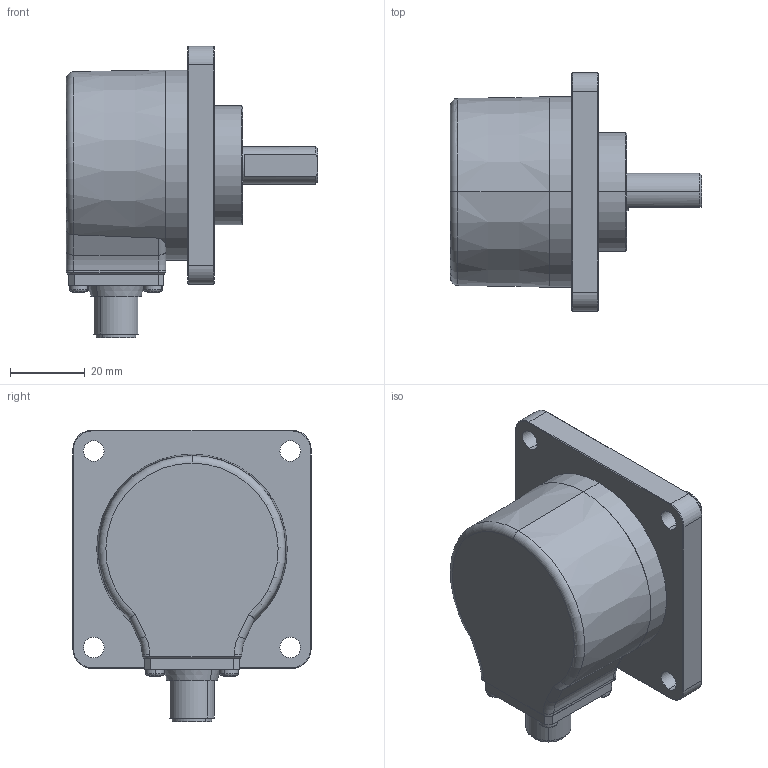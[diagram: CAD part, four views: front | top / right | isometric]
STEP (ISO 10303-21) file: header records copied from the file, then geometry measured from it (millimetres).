
FILE_DESCRIPTION (( 'STEP AP214' ), '1' );
FILE_NAME ('5000.3DX4.XXXX.STEP', '2011-01-04T09:37:50', ( 'admin' ), ( 'Fritz Kübler GmbH' ), 'SwSTEP 2.0', 'SolidWorks 2009', '' );
FILE_SCHEMA (( 'AUTOMOTIVE_DESIGN' ));
Length unit declared in the file: millimetre
Products named in the file (1): 5000.3DX4.XXXX
Bounding box: 67 x 63.5 x 77.75 mm (x, y, z)
Surface area: 20913.6 mm2 (no closed solid volume)
Topology: 0 solids, 17 shells, 258 faces, 733 edges, 460 vertices
Faces by surface type: plane 96, cylinder 69, sphere 44, cone 23, torus 22, bspline 4
Entity records: 11368 total; most frequent: CARTESIAN_POINT 2188, DIRECTION 1407, ORIENTED_EDGE 1210, EDGE_CURVE 649, AXIS2_PLACEMENT_3D 569, VERTEX_POINT 414, CIRCLE 314, EDGE_LOOP 308
